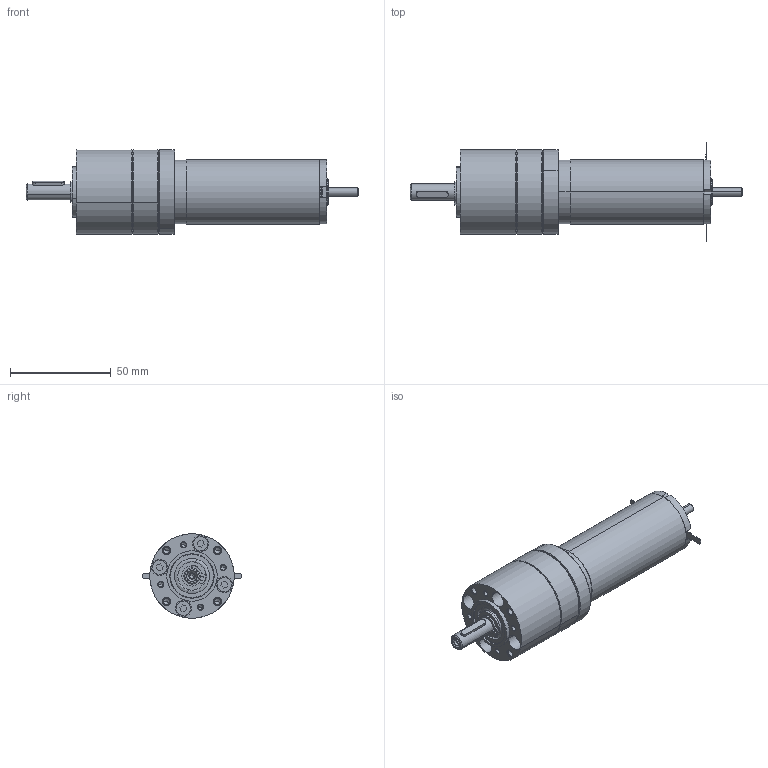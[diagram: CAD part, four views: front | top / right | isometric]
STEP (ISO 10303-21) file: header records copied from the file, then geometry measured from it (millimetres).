
FILE_DESCRIPTION (( 'STEP AP214' ), '1' );
FILE_NAME ('DCX32LG + PM42-1 étage.STEP', '2014-10-15T09:16:10', ( '' ), ( '' ), 'SwSTEP 2.0', 'SolidWorks 2013', '' );
FILE_SCHEMA (( 'AUTOMOTIVE_DESIGN' ));
Length unit declared in the file: millimetre
Products named in the file (36): 1228610; 8007595_LAGERFLANSCH_10; 5; Coté moteur^PM42 pour DCX32LG; 4; MOTORFLANSCH_1240243; 3; 8012556_MOTORRITZEL_Z17_1_3; 2; 8001288_ANLAUFSCHEIBE_1ST_9; 1; 8007606_DICHTRING_10; P8209_8007589_ZAHNKRANZ_Z46_10; DCX32LG + PM42-1 étage; DCX32LG; 16; 15; PM42 pour DCX32LG_1 etages; 14; Coté sortie^PM42 pour DCX32LG; 13; SCHRAUBE_1241978_17; 12; 3X3X16_D6885A_11; 11; D471_8X0_8_11; 10; 8001316_ABTRIEB_LK4_KPL_10; 9; 8001305_LAGERBOLZEN_11; 8; VBZ_K7841_ABTRIEB_AF0_11; 7; DIN998_PS_8X14X1_11; 6; D625-608-2RS_10
Assembly tree (43 placements, depth 5):
  DCX32LG + PM42-1 étage
    DCX32LG
      1
      2
      3
      4
      5
      1228610
      6
      7
      8
      9
      10
      11
      12
      13
      14
      15
      16
    PM42 pour DCX32LG_1 etages
      P8209_8007589_ZAHNKRANZ_Z46_10
      Coté moteur^PM42 pour DCX32LG
        8007606_DICHTRING_10
        8001288_ANLAUFSCHEIBE_1ST_9
        8012556_MOTORRITZEL_Z17_1_3
        MOTORFLANSCH_1240243
      Coté sortie^PM42 pour DCX32LG
        8007595_LAGERFLANSCH_10
        D625-608-2RS_10  x2
        DIN998_PS_8X14X1_11  x2
        8001316_ABTRIEB_LK4_KPL_10
          VBZ_K7841_ABTRIEB_AF0_11
          8001305_LAGERBOLZEN_11  x3
        D471_8X0_8_11
        3X3X16_D6885A_11
        8007606_DICHTRING_10
        SCHRAUBE_1241978_17  x4
Bounding box: 165.05 x 49.3 x 42 mm (x, y, z)
Volume: 65308.7 mm3; surface area: 63387.8 mm2
Topology: 35 solids, 61 shells, 2062 faces, 4839 edges, 2936 vertices
Faces by surface type: cone 769, cylinder 688, plane 489, bspline 116
Entity records: 76428 total; most frequent: CARTESIAN_POINT 15364, DIRECTION 10324, ORIENTED_EDGE 8982, EDGE_CURVE 4519, AXIS2_PLACEMENT_3D 4041, VERTEX_POINT 2746, VECTOR 2242, LINE 2242
